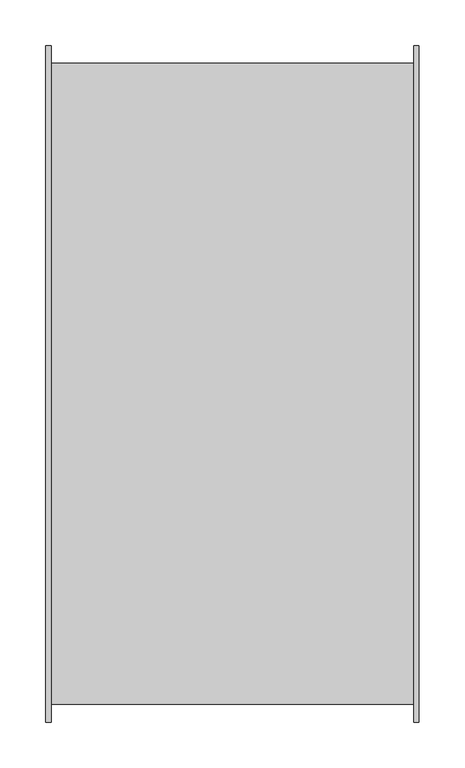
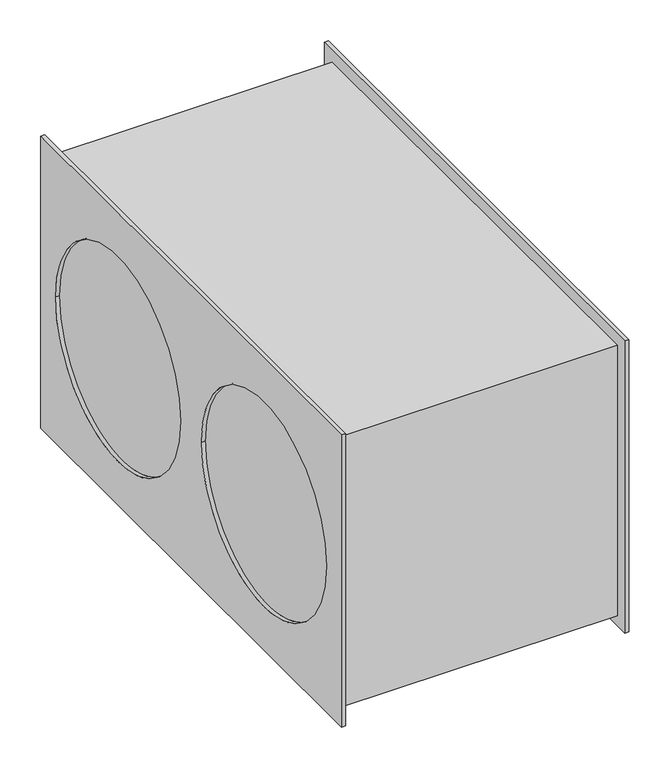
"""IFC4 building model written with IfcOpenShell, lengths in millimetres: unitary equipment geometry, VE-Wentylator-ParaForma-Harmann-JETTEC_REC-Nawiewny : 070/40/7100S."""

from ifc_helpers import new_model, si_unit, frame, origin, place, context, project, spatial, polyline, circle_curve, source, transform, mapped, element, save
from ifc_brep_helpers import plane_surface, revolved_surface, advanced_brep


def unitary_equipment_0bbbc2e4(model_context):
    return source(origin(), model_context, "Body", "AdvancedBrep", [
        advanced_brep(
        [(198.2, -369.3, -219.0), (198.2, -369.3, 219.0), (198.2, 369.3, 219.0), (198.2, 369.3, -219.0), (198.2, -350.0, 200.8), (198.2, -350.0, -204.2), (198.2, 350.0, -204.2), (198.2, 350.0, 200.8), (204.0, -369.3, -219.0), (204.0, 369.3, -219.0), (204.0, 369.3, 219.0), (204.0, -369.3, 219.0), (204.0, -332.8, 0.0), (204.0, -25.8, 0.0), (204.0, 25.8, 0.0), (204.0, 332.8, 0.0), (198.2, -25.8, 0.0), (198.2, -332.8, 0.0), (198.2, 332.8, 0.0), (198.2, 25.8, 0.0), (-198.2, -332.8, 0.0), (-198.2, -25.8, 0.0), (-198.2, 25.8, 0.0), (-198.2, 332.8, 0.0), (-198.2, -350.0, -204.2), (-198.2, -350.0, 200.8), (-198.2, 350.0, 200.8), (-198.2, 350.0, -204.2), (-204.0, -369.3, -219.0), (-204.0, -369.3, 219.0), (-204.0, 369.3, 219.0), (-204.0, 369.3, -219.0), (-204.0, -25.8, 0.0), (-204.0, -332.8, 0.0), (-204.0, 332.8, 0.0), (-204.0, 25.8, 0.0), (-198.2, -369.3, -219.0), (-198.2, 369.3, -219.0), (-198.2, 369.3, 219.0), (-198.2, -369.3, 219.0)],
        [
            (0, 1),
            (1, 2),
            (2, 3),
            (3, 0),
            (4, 5),
            (5, 6),
            (6, 7),
            (7, 4),
            (8, 9),
            (9, 10),
            (10, 11),
            (11, 8),
            (12, 13, circle_curve(frame((204.0, -179.3, 0.0), z_axis=(-1.0, 0.0, 0.0), x_axis=(0.0, 1.0, 0.0)), 153.5)),
            (13, 12, circle_curve(frame((204.0, -179.3, 0.0), z_axis=(-1.0, 0.0, 0.0), x_axis=(0.0, 1.0, 0.0)), 153.5)),
            (14, 15, circle_curve(frame((204.0, 179.3, 0.0), z_axis=(-1.0, 0.0, 0.0), x_axis=(0.0, 1.0, 0.0)), 153.5)),
            (15, 14, circle_curve(frame((204.0, 179.3, 0.0), z_axis=(-1.0, 0.0, 0.0), x_axis=(0.0, 1.0, 0.0)), 153.5)),
            (0, 8),
            (11, 1),
            (10, 2),
            (9, 3),
            (16, 13),
            (12, 17),
            (17, 16, circle_curve(frame((198.2, -179.3, 0.0), z_axis=(-1.0, 0.0, 0.0), x_axis=(0.0, 1.0, 0.0)), 153.5)),
            (16, 17, circle_curve(frame((198.2, -179.3, 0.0), z_axis=(-1.0, 0.0, 0.0), x_axis=(0.0, 1.0, 0.0)), 153.5)),
            (18, 15),
            (14, 19),
            (19, 18, circle_curve(frame((198.2, 179.3, 0.0), z_axis=(-1.0, 0.0, 0.0), x_axis=(0.0, 1.0, 0.0)), 153.5)),
            (18, 19, circle_curve(frame((198.2, 179.3, 0.0), z_axis=(-1.0, 0.0, 0.0), x_axis=(0.0, 1.0, 0.0)), 153.5)),
            (20, 21, circle_curve(frame((-198.2, -179.3, 0.0), z_axis=(-1.0, 0.0, 0.0), x_axis=(0.0, 1.0, 0.0)), 153.5)),
            (21, 20, circle_curve(frame((-198.2, -179.3, 0.0), z_axis=(-1.0, 0.0, 0.0), x_axis=(0.0, 1.0, 0.0)), 153.5)),
            (22, 23, circle_curve(frame((-198.2, 179.3, 0.0), z_axis=(-1.0, 0.0, 0.0), x_axis=(0.0, 1.0, 0.0)), 153.5)),
            (23, 22, circle_curve(frame((-198.2, 179.3, 0.0), z_axis=(-1.0, 0.0, 0.0), x_axis=(0.0, 1.0, 0.0)), 153.5)),
            (24, 5),
            (4, 25),
            (25, 24),
            (7, 26),
            (26, 25),
            (6, 27),
            (27, 26),
            (24, 27),
            (28, 29),
            (29, 30),
            (30, 31),
            (31, 28),
            (32, 33, circle_curve(frame((-204.0, -179.3, 0.0), z_axis=(1.0, 0.0, 0.0), x_axis=(0.0, 1.0, 0.0)), 153.5)),
            (33, 32, circle_curve(frame((-204.0, -179.3, 0.0), z_axis=(1.0, 0.0, 0.0), x_axis=(0.0, 1.0, 0.0)), 153.5)),
            (34, 35, circle_curve(frame((-204.0, 179.3, 0.0), z_axis=(1.0, 0.0, 0.0), x_axis=(0.0, 1.0, 0.0)), 153.5)),
            (35, 34, circle_curve(frame((-204.0, 179.3, 0.0), z_axis=(1.0, 0.0, 0.0), x_axis=(0.0, 1.0, 0.0)), 153.5)),
            (36, 37),
            (37, 38),
            (38, 39),
            (39, 36),
            (28, 36),
            (39, 29),
            (38, 30),
            (37, 31),
            (32, 21),
            (20, 33),
            (34, 23),
            (22, 35),
        ],
        [
            plane_surface(frame((198.2, 0.0, 0.0), z_axis=(-1.0, 0.0, 0.0), x_axis=(0.0, 0.0, 1.0))),
            plane_surface(frame((204.0, 0.0, 0.0), z_axis=(1.0, 0.0, 0.0), x_axis=(0.0, 0.0, 1.0))),
            plane_surface(frame((198.2, -369.3, -219.0), z_axis=(0.0, -1.0, 0.0), x_axis=(1.0, 0.0, 0.0))),
            plane_surface(frame((198.2, -369.3, 219.0), z_axis=(0.0, 0.0, 1.0), x_axis=(1.0, 0.0, 0.0))),
            plane_surface(frame((198.2, 369.3, 219.0), z_axis=(0.0, 1.0, 0.0), x_axis=(1.0, 0.0, 0.0))),
            plane_surface(frame((198.2, 369.3, -219.0), z_axis=(0.0, 0.0, -1.0), x_axis=(1.0, 0.0, 0.0))),
            revolved_surface(polyline([(198.2, -25.80000000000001, 0.0), (204.0, -25.80000000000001, 0.0)]), (198.2, -179.3, 0.0), (-1.0, 0.0, 0.0)),
            revolved_surface(polyline([(198.2, 332.8, 0.0), (204.0, 332.8, 0.0)]), (198.2, 179.3, 0.0), (-1.0, 0.0, 0.0)),
            plane_surface(frame((-198.2, 0.0, 0.0), z_axis=(-1.0, 0.0, 0.0), x_axis=(0.0, 0.0, 1.0))),
            plane_surface(frame((198.2, 0.0, 0.0), z_axis=(1.0, 0.0, 0.0), x_axis=(0.0, 0.0, 1.0))),
            plane_surface(frame((-198.2, -350.0, -204.2), z_axis=(0.0, -1.0, 0.0), x_axis=(1.0, 0.0, 0.0))),
            plane_surface(frame((-198.2, -350.0, 200.8), z_axis=(0.0, 0.0, 1.0), x_axis=(1.0, 0.0, 0.0))),
            plane_surface(frame((-198.2, 350.0, 200.8), z_axis=(0.0, 1.0, 0.0), x_axis=(1.0, 0.0, 0.0))),
            plane_surface(frame((-198.2, 350.0, -204.2), z_axis=(0.0, 0.0, -1.0), x_axis=(1.0, 0.0, 0.0))),
            plane_surface(frame((-204.0, 0.0, 0.0), z_axis=(-1.0, 0.0, 0.0), x_axis=(0.0, 0.0, 1.0))),
            plane_surface(frame((-198.2, 0.0, 0.0), z_axis=(1.0, 0.0, 0.0), x_axis=(0.0, 0.0, 1.0))),
            plane_surface(frame((-204.0, -369.3, -219.0), z_axis=(0.0, -1.0, 0.0), x_axis=(1.0, 0.0, 0.0))),
            plane_surface(frame((-204.0, -369.3, 219.0), z_axis=(0.0, 0.0, 1.0), x_axis=(1.0, 0.0, 0.0))),
            plane_surface(frame((-204.0, 369.3, 219.0), z_axis=(0.0, 1.0, 0.0), x_axis=(1.0, 0.0, 0.0))),
            plane_surface(frame((-204.0, 369.3, -219.0), z_axis=(0.0, 0.0, -1.0), x_axis=(1.0, 0.0, 0.0))),
            revolved_surface(polyline([(-204.0, -25.80000000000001, 0.0), (-198.2, -25.80000000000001, 0.0)]), (-204.0, -179.3, 0.0), (-1.0, 0.0, 0.0)),
            revolved_surface(polyline([(-204.0, 332.8, 0.0), (-198.2, 332.8, 0.0)]), (-204.0, 179.3, 0.0), (-1.0, 0.0, 0.0)),
        ],
        [
            (0, [[1, 2, 3, 4], [5, 6, 7, 8]]),
            (1, [[9, 10, 11, 12], [13, 14], [15, 16]]),
            (2, [[-1, 17, -12, 18]]),
            (3, [[-2, -18, -11, 19]]),
            (4, [[-3, -19, -10, 20]]),
            (5, [[-4, -20, -9, -17]]),
            (6, [[21, -13, 22, 23]]),
            (6, [[-21, 24, -22, -14]]),
            (7, [[25, -15, 26, 27]]),
            (7, [[-25, 28, -26, -16]]),
            (8, [[29, 30]]),
            (8, [[31, 32]]),
            (9, [[-23, -24]]),
            (9, [[-27, -28]]),
            (10, [[33, -5, 34, 35]]),
            (11, [[-34, -8, 36, 37]]),
            (12, [[-36, -7, 38, 39]]),
            (13, [[-33, 40, -38, -6]]),
            (14, [[41, 42, 43, 44], [45, 46], [47, 48]]),
            (15, [[49, 50, 51, 52], [-35, -37, -39, -40]]),
            (16, [[-41, 53, -52, 54]]),
            (17, [[-42, -54, -51, 55]]),
            (18, [[-43, -55, -50, 56]]),
            (19, [[-44, -56, -49, -53]]),
            (20, [[57, -29, 58, -45]]),
            (20, [[-57, -46, -58, -30]]),
            (21, [[59, -31, 60, -47]]),
            (21, [[-59, -48, -60, -32]]),
        ],
    ),
    ])


if __name__ == "__main__":
    model = new_model("IFC4")
    model_context = context("Model", 3, world=origin())
    ifc_project = project(units=[si_unit("LENGTHUNIT", "METRE", prefix="MILLI")], contexts=[model_context])
    site = spatial("IfcSite", under=ifc_project)
    building = spatial("IfcBuilding", under=site)
    placement = place(None, origin())
    unitary_equipment_shape = unitary_equipment_0bbbc2e4(model_context)
    element("IfcUnitaryEquipment", 1, ObjectType="VE-Wentylator-ParaForma-Harmann-JETTEC_REC-Nawiewny : 070/40/7100S", at=placement, inside=building, context=model_context, shape_type="MappedRepresentation", body=[
        mapped(unitary_equipment_shape, transform((0.0, 0.0, 0.0), x_axis=(1.0, 0.0, 0.0), y_axis=(0.0, 1.0, 0.0), z_axis=(0.0, 0.0, 1.0))),
    ])
    save(model, "model.ifc")
